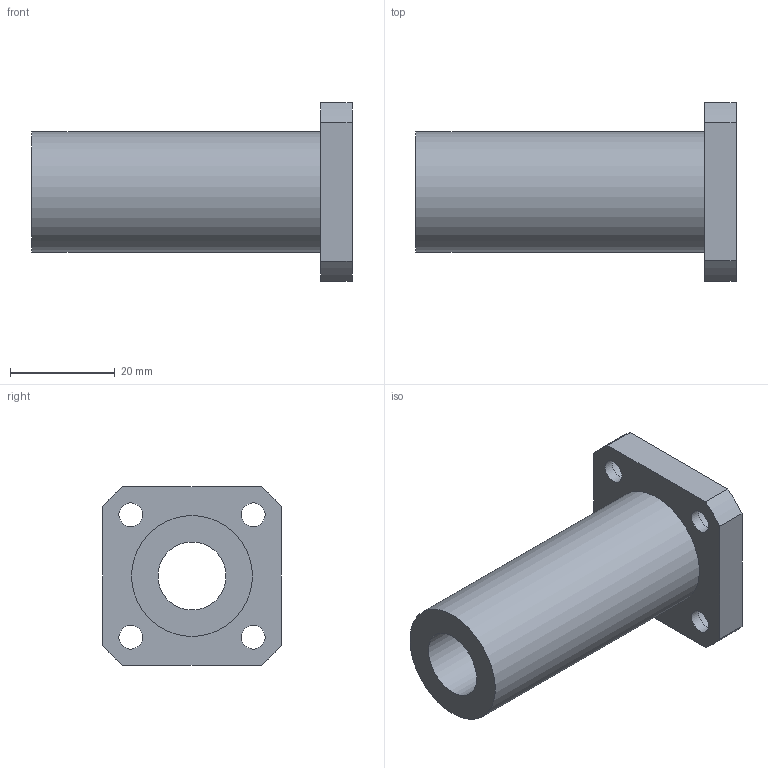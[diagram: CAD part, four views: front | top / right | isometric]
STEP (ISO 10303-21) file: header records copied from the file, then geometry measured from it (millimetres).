
FILE_DESCRIPTION(/* description */ (''),/* implementation_level */ '2;1');
FILE_NAME(/* name */ 'LMK13LUU',/* time_stamp */ '2019-07-09T15:48:25+02:00',/* author */ ('VĂ©gh MĂˇtĂ©'),/* organization */ ('Bearing Kft'),/* preprocessor_version */ 'ST-DEVELOPER v16.7',/* originating_system */ 'DEX',/* authorisation */ $);
FILE_SCHEMA (('AUTOMOTIVE_DESIGN {1 0 10303 214 3 1 1}'));
Length unit declared in the file: millimetre
Products named in the file (1): LMK13LUU
Bounding box: 61 x 34 x 34 mm (x, y, z)
Volume: 20681.5 mm3; surface area: 9603.3 mm2
Topology: 1 solids, 1 shells, 336 faces, 849 edges, 566 vertices
Faces by surface type: plane 259, bspline 60, cylinder 17
Full cylindrical faces by diameter (mm): 4.5 x4, 7.5 x4, 13 x1, 23 x1
Entity records: 12646 total; most frequent: CARTESIAN_POINT 4905, ORIENTED_EDGE 1676, DIRECTION 1306, EDGE_CURVE 838, LINE 684, VECTOR 684, VERTEX_POINT 566, EDGE_LOOP 408
